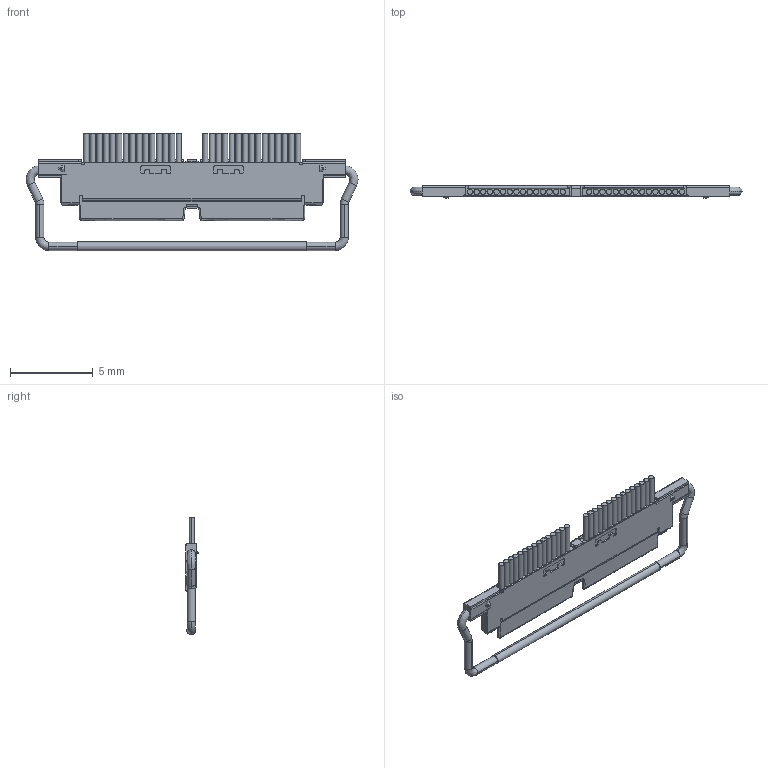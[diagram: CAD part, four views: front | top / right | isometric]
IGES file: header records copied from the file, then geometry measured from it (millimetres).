
Start section: SolidWorks IGES file using analytic representation for surfaces
Global section: file name: C:\Users\ieng2-009\Desktop\WORKING\ishimaru\180516 step_iges_30P\20728-030TxxxC PLUG CABLE ASSY IGES R0 ALL.IGS; native system: SolidWorks 2017; preprocessor: SolidWorks 2017; author: ieng2-009; date: 180613.182418; units: millimetre
Bounding box: 20.05 x 0.73 x 7.11 mm (x, y, z)
Surface area: 249.2 mm2 (no closed solid volume)
Topology: 0 solids, 0 shells, 850 faces, 6345 edges, 6345 vertices
Faces by surface type: bspline 616, revolution 234
